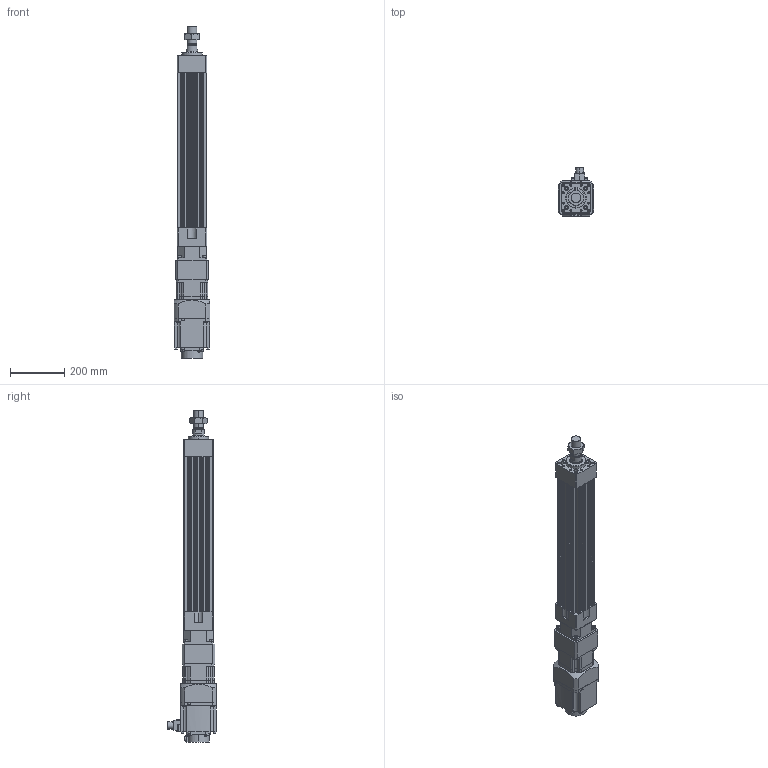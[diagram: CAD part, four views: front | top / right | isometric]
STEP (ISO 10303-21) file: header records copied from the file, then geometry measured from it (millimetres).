
FILE_DESCRIPTION (( 'STEP AP203' ), '1' );
FILE_NAME ('HES110NS(HS)-S400-W015G00-M.STEP', '2023-01-27T10:40:22', ( 'tms' ), ( '' ), 'SwSTEP 2.0', 'SolidWorks 2013', '' );
FILE_SCHEMA (( 'CONFIG_CONTROL_DESIGN' ));
Length unit declared in the file: millimetre
Products named in the file (8): HES110NS(HS)-S400-W015G00-M; HES110-S400-G120; M36X1.5P; HG-SR152; P0401400706; HES110 ROD M ST400; AB1151; AB115-003[HG-SR152]
Assembly tree (7 placements, depth 3):
  HES110NS(HS)-S400-W015G00-M
    HES110-S400-G120
    HES110 ROD M ST400
    M36X1.5P
    AB115-003[HG-SR152]
      AB1151
      P0401400706
    HG-SR152
Bounding box: 130 x 177.49 x 1221.5 mm (x, y, z)
Volume: 7769118.1 mm3; surface area: 1082148.6 mm2
Topology: 4 solids, 15 shells, 1202 faces, 3026 edges, 1951 vertices
Faces by surface type: plane 551, cylinder 537, cone 102, bspline 8, torus 4
Entity records: 37654 total; most frequent: CARTESIAN_POINT 7134, DIRECTION 6533, ORIENTED_EDGE 5960, EDGE_CURVE 2990, AXIS2_PLACEMENT_3D 2410, VERTEX_POINT 1951, VECTOR 1713, LINE 1713
